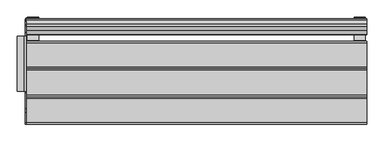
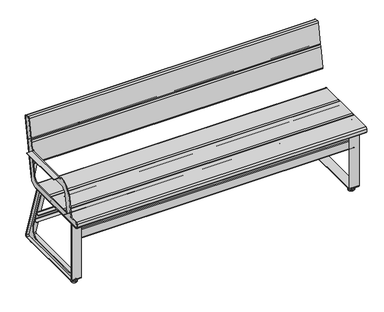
"""IFC4 building model written with IfcOpenShell, lengths in millimetres: furniture geometry, Roros Produkter - Trend - Bench - Backrest & Armrest - 32981 : Roros Produkter - Trend - Bench - Backrest & Armrest - 32981."""

from ifc_helpers import new_model, si_unit, point, frame, frame_2d, origin, place, context, project, spatial, polyline, circle_curve, ellipse_curve, trimmed, segment, composite_curve, outline, extrude, source, transform, mapped, element, save
from ifc_brep_helpers import plane_surface, cylinder_surface, revolved_surface, advanced_brep


def furniture_f64518dc(model_context):
    return source(origin(), model_context, "Body", "SolidModel", [
        extrude(outline(composite_curve([segment(trimmed(circle_curve(frame_2d((238.4053404, 31.7)), 10.0), [point((247.9159055, 34.7901699))], [point((238.4053404, 21.7))], False, "CARTESIAN"), True, "CONTINUOUS"), segment(polyline([(238.4053404, 21.7), (-237.8308404, 21.7)]), True, "CONTINUOUS"), segment(trimmed(circle_curve(frame_2d((-237.8308404, 31.7)), 10.0), [point((-237.8308404, 21.7))], [point((-247.8308404, 31.7))], False, "CARTESIAN"), True, "CONTINUOUS"), segment(polyline([(-247.8308404, 31.7), (-247.8308404, 401.464)]), True, "CONTINUOUS"), segment(trimmed(circle_curve(frame_2d((-237.8308404, 401.464)), 10.0), [point((-247.8308404, 401.464))], [point((-237.8308404, 411.464))], False, "CARTESIAN"), True, "CONTINUOUS"), segment(polyline([(-237.8308404, 411.464), (-127.8308404, 411.464), (-127.8308404, 407.464), (-237.8308404, 407.464)]), True, "CONTINUOUS"), segment(trimmed(circle_curve(frame_2d((-237.8308404, 401.464)), 6.0), [point((-237.8308404, 407.464))], [point((-243.8308404, 401.464))], True, "CARTESIAN"), True, "CONTINUOUS"), segment(polyline([(-243.8308404, 401.464), (-243.8308404, 31.7)]), True, "CONTINUOUS"), segment(trimmed(circle_curve(frame_2d((-237.8308404, 31.7)), 6.0), [point((-243.8308404, 31.7))], [point((-237.8308404, 25.7))], True, "CARTESIAN"), True, "CONTINUOUS"), segment(polyline([(-237.8308404, 25.7), (238.4053404, 25.7)]), True, "CONTINUOUS"), segment(trimmed(circle_curve(frame_2d((238.4053404, 31.7)), 6.0), [point((238.4053404, 25.7))], [point((244.1116795, 33.554102))], True, "CARTESIAN"), True, "CONTINUOUS"), segment(polyline([(244.1116795, 33.554102), (123.9681107, 403.3179856)]), True, "CONTINUOUS"), segment(trimmed(circle_curve(frame_2d((118.2617716, 401.4638836)), 6.0), [point((123.9681107, 403.3179856))], [point((118.2617716, 407.4638836))], True, "CARTESIAN"), True, "CONTINUOUS"), segment(polyline([(118.2617716, 407.4638836), (-4.4728031, 407.4638836), (-4.4728031, 411.4638836), (118.2617716, 411.4638836)]), True, "CONTINUOUS"), segment(trimmed(circle_curve(frame_2d((118.2617716, 401.4638836)), 10.0), [point((118.2617716, 411.4638836))], [point((127.7723368, 404.5540536))], False, "CARTESIAN"), True, "CONTINUOUS"), segment(polyline([(127.7723368, 404.5540536), (247.9159055, 34.7901699)]), True, "CONTINUOUS")], self_intersect=False)), frame((837.8, 0.0, 0.0), z_axis=(1.0, 0.0, 0.0), x_axis=(0.0, 1.0, 0.0)), (0.0, 0.0, 1.0), 60.0),
        advanced_brep(
        [(-908.0, -307.8308404, 421.464), (-898.0, -307.8308404, 411.464), (-853.0, -307.8308404, 411.464), (-853.0, -307.8308404, 415.464), (-898.0, -307.8308404, 415.464), (-904.0, -307.8308404, 421.464), (-904.0, -307.8308404, 421.664), (-908.0, -307.8308404, 421.664), (-904.0, 121.742304, 421.464), (-898.0, 121.742304, 415.464), (-853.0, 121.742304, 415.464), (-853.0, 121.742304, 411.464), (-898.0, 121.742304, 411.464), (-908.0, 121.742304, 421.464), (-908.0, 121.742304, 421.664), (-904.0, 121.742304, 421.664), (-904.0, -257.3458129, 457.464), (-904.0, -236.7737044, 574.1342251), (-908.0, -236.7737044, 574.1342251), (-908.0, -257.3458129, 457.464), (-904.0, -307.8308404, 457.464), (-908.0, -307.8308404, 457.464), (-904.0, -317.8308404, 447.464), (-908.0, -317.8308404, 447.464), (-904.0, -317.8308404, 431.664), (-908.0, -317.8308404, 431.664), (-904.0, 123.242304, 421.664), (-908.0, 123.242304, 421.664), (-904.0, 171.5252579, 461.3391091), (-908.0, 171.5252579, 461.3391091), (-904.0, 171.7857301, 462.8163208), (-908.0, 171.7857301, 462.8163208), (-904.0, 227.5482115, 836.6487723), (-904.0, 235.6598072, 825.064213), (-908.0, 235.6598072, 825.064213), (-908.0, 227.5482115, 836.6487723), (-904.0, 211.988249, 839.3924135), (-908.0, 211.988249, 839.3924135), (-904.0, 200.4036897, 831.2808178), (-908.0, 200.4036897, 831.2808178), (-904.0, 169.0497871, 653.464), (-908.0, 169.0497871, 653.464), (-904.0, 150.5497871, 653.464), (-908.0, 150.5497871, 653.464), (-904.0, 150.5497871, 643.264), (-908.0, 150.5497871, 643.264), (-904.0, 149.0497871, 643.264), (-908.0, 149.0497871, 643.264), (-904.0, -143.7321601, 643.264), (-904.0, -142.2321601, 643.264), (-908.0, -142.2321601, 643.264), (-908.0, -143.7321601, 643.264), (-904.0, -143.7321601, 647.1509556), (-908.0, -143.7321601, 647.1509556), (-904.0, -150.2321601, 653.1300859), (-908.0, -150.2321601, 653.1300859), (-904.0, 160.938746, 607.464), (-904.0, -142.2321601, 607.464), (-908.0, -142.2321601, 607.464), (-908.0, 160.938746, 607.464), (-904.0, 141.775105, 498.7815911), (-908.0, 141.775105, 498.7815911), (-904.0, 92.5347173, 457.464), (-908.0, 92.5347173, 457.464), (-904.0, -210.6361888, 457.464), (-908.0, -210.6361888, 457.464), (-904.0, -191.4725478, 566.1464089), (-908.0, -191.4725478, 566.1464089), (-914.0, -142.2321601, 649.464), (-908.0, -142.2321601, 643.464), (-904.0, -142.2321601, 643.464), (-914.0, -142.2321601, 653.464), (-950.0, -142.2321601, 653.464), (-950.0, -142.2321601, 649.464), (-914.0, 149.0497871, 649.464), (-950.0, 149.0497871, 649.464), (-950.0, 149.0497871, 653.464), (-914.0, 149.0497871, 653.464), (-904.0, 149.0497871, 643.464), (-908.0, 149.0497871, 643.464), (-898.0, 245.7048463, 823.2930016), (-908.0, 235.8567688, 825.0294834), (-904.0, 235.8567688, 825.0294834), (-898.0, 241.7656153, 823.9875943), (-863.0, 241.7656153, 823.9875943), (-863.0, 245.7048463, 823.2930016), (-898.0, 177.8915382, 461.7397021), (-904.0, 171.9826917, 462.7815911), (-908.0, 171.9826917, 462.7815911), (-898.0, 181.8307692, 461.0451093), (-892.7989561, 181.8307692, 461.0451093), (-892.7989561, 177.8915382, 461.7397021), (-883.4034627, 179.0334251, 468.2156645), (-853.6045066, 193.2318427, 548.7388923), (-853.0, 193.8264376, 552.1110073), (-853.0, 240.0291335, 814.1395168), (-853.0, 197.7656686, 551.4164146), (-853.0, 243.9683646, 813.4449241), (-853.6045066, 197.1710737, 548.0442996), (-883.4034627, 182.9726561, 467.5210718)],
        [
            (0, 1, circle_curve(frame((-898.0, -307.8308404, 421.464), z_axis=(0.0, -1.0, 0.0), x_axis=(1.0, 0.0, 0.0)), 10.0)),
            (1, 2),
            (2, 3),
            (3, 4),
            (4, 5, circle_curve(frame((-898.0, -307.8308404, 421.464), z_axis=(0.0, 1.0, 0.0), x_axis=(1.0, 0.0, 0.0)), 6.0)),
            (5, 6),
            (6, 7),
            (7, 0),
            (8, 9, circle_curve(frame((-898.0, 121.742304, 421.464), z_axis=(0.0, -1.0, 0.0), x_axis=(1.0, 0.0, 0.0)), 6.0)),
            (9, 10),
            (10, 11),
            (11, 12),
            (12, 13, circle_curve(frame((-898.0, 121.742304, 421.464), z_axis=(0.0, 1.0, 0.0), x_axis=(1.0, 0.0, 0.0)), 10.0)),
            (13, 14),
            (14, 15),
            (15, 8),
            (0, 13),
            (12, 1),
            (11, 2),
            (10, 3),
            (9, 4),
            (8, 5),
            (16, 17),
            (17, 18),
            (18, 19),
            (19, 16),
            (20, 16),
            (19, 21),
            (21, 20),
            (22, 20, circle_curve(frame((-904.0, -307.8308404, 447.464), z_axis=(-1.0, 0.0, 0.0), x_axis=(0.0, -1.0, 0.0)), 10.0)),
            (21, 23, circle_curve(frame((-908.0, -307.8308404, 447.464), z_axis=(1.0, 0.0, 0.0), x_axis=(0.0, -1.0, 0.0)), 10.0)),
            (23, 22),
            (24, 22),
            (23, 25),
            (25, 24),
            (6, 24, circle_curve(frame((-904.0, -307.8308404, 431.664), z_axis=(-1.0, 0.0, 0.0), x_axis=(0.0, -0.7071067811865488, -0.7071067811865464)), 10.0)),
            (25, 7, circle_curve(frame((-908.0, -307.8308404, 431.664), z_axis=(1.0, 0.0, 0.0), x_axis=(0.0, -0.7071067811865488, -0.7071067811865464)), 10.0)),
            (26, 15),
            (14, 27),
            (27, 26),
            (28, 26, circle_curve(frame((-904.0, 122.6020398, 471.6599004), z_axis=(-1.0, 0.0, 0.0), x_axis=(0.0, -0.9784643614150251, 0.20641582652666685)), 50.0)),
            (27, 29, circle_curve(frame((-908.0, 122.6020398, 471.6599004), z_axis=(1.0, 0.0, 0.0), x_axis=(0.0, -0.9784643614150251, 0.20641582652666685)), 50.0)),
            (29, 28),
            (30, 28),
            (29, 31),
            (31, 30),
            (32, 33, circle_curve(frame((-904.0, 225.8117297, 826.8006948), z_axis=(-1.0, 0.0, 0.0), x_axis=(0.0, 0.8191520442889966, 0.5735764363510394)), 10.0)),
            (33, 34),
            (34, 35, circle_curve(frame((-908.0, 225.8117297, 826.8006948), z_axis=(1.0, 0.0, 0.0), x_axis=(0.0, 0.8191520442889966, 0.5735764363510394)), 10.0)),
            (35, 32),
            (36, 32),
            (35, 37),
            (37, 36),
            (38, 36, circle_curve(frame((-904.0, 210.2517672, 829.544336), z_axis=(-1.0, 0.0, 0.0), x_axis=(0.0, -0.9848077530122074, 0.17364817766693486)), 10.0)),
            (37, 39, circle_curve(frame((-908.0, 210.2517672, 829.544336), z_axis=(1.0, 0.0, 0.0), x_axis=(0.0, -0.9848077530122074, 0.17364817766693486)), 10.0)),
            (39, 38),
            (40, 38),
            (39, 41),
            (41, 40),
            (42, 40),
            (41, 43),
            (43, 42),
            (44, 42),
            (43, 45),
            (45, 44),
            (46, 44),
            (45, 47),
            (47, 46),
            (48, 49),
            (49, 50),
            (50, 51),
            (51, 48),
            (52, 48),
            (51, 53),
            (53, 52),
            (54, 52, circle_curve(frame((-904.0, -149.7321601, 647.1509556), z_axis=(-1.0, 0.0, 0.0), x_axis=(0.0, 0.6770032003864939, 0.7359800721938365)), 6.0)),
            (53, 55, circle_curve(frame((-908.0, -149.7321601, 647.1509556), z_axis=(1.0, 0.0, 0.0), x_axis=(0.0, 0.6770032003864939, 0.7359800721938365)), 6.0)),
            (55, 54),
            (17, 54, circle_curve(frame((-904.0, -142.2321601, 557.464), z_axis=(-1.0, 0.0, 0.0), x_axis=(0.0, -0.9848077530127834, 0.17364817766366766)), 96.0)),
            (55, 18, circle_curve(frame((-908.0, -142.2321601, 557.464), z_axis=(1.0, 0.0, 0.0), x_axis=(0.0, -0.9848077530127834, 0.17364817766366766)), 96.0)),
            (56, 57),
            (57, 58),
            (58, 59),
            (59, 56),
            (60, 56),
            (59, 61),
            (61, 60),
            (62, 60, circle_curve(frame((-904.0, 92.5347173, 507.464), z_axis=(1.0, 0.0, 0.0), x_axis=(0.0, -0.9848077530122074, 0.17364817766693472)), 50.0)),
            (61, 63, circle_curve(frame((-908.0, 92.5347173, 507.464), z_axis=(-1.0, 0.0, 0.0), x_axis=(0.0, -0.9848077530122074, 0.17364817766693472)), 50.0)),
            (63, 62),
            (64, 62),
            (63, 65),
            (65, 64),
            (66, 64),
            (65, 67),
            (67, 66),
            (57, 66, circle_curve(frame((-904.0, -142.2321601, 557.464), z_axis=(1.0, 0.0, 0.0), x_axis=(0.0, 0.984807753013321, -0.17364817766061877)), 50.0)),
            (67, 58, circle_curve(frame((-908.0, -142.2321601, 557.464), z_axis=(-1.0, 0.0, 0.0), x_axis=(0.0, 0.984807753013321, -0.17364817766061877)), 50.0)),
            (68, 69, circle_curve(frame((-914.0, -142.2321601, 643.464), z_axis=(0.0, 1.0, 0.0), x_axis=(1.0, 0.0, 0.0)), 6.0)),
            (69, 50),
            (49, 70),
            (70, 71, circle_curve(frame((-914.0, -142.2321601, 643.464), z_axis=(0.0, -1.0, 0.0), x_axis=(1.0, 0.0, 0.0)), 10.0)),
            (71, 72),
            (72, 73),
            (73, 68),
            (74, 75),
            (75, 76),
            (76, 77),
            (77, 78, circle_curve(frame((-914.0, 149.0497871, 643.464), z_axis=(0.0, 1.0, 0.0), x_axis=(1.0, 0.0, 0.0)), 10.0)),
            (78, 46),
            (47, 79),
            (79, 74, circle_curve(frame((-914.0, 149.0497871, 643.464), z_axis=(0.0, -1.0, 0.0), x_axis=(1.0, 0.0, 0.0)), 6.0)),
            (68, 74),
            (79, 69),
            (70, 78),
            (77, 71),
            (76, 72),
            (75, 73),
            (80, 81, circle_curve(frame((-898.0, 235.8567688, 825.0294834), z_axis=(0.0, 0.1736481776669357, 0.9848077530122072), x_axis=(0.0, 0.9848077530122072, -0.1736481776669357)), 10.0)),
            (81, 34),
            (33, 82),
            (82, 83, circle_curve(frame((-898.0, 235.8567688, 825.0294834), z_axis=(0.0, -0.1736481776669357, -0.9848077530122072), x_axis=(0.0, 0.9848077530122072, -0.1736481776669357)), 6.0)),
            (83, 84),
            (84, 85),
            (85, 80),
            (86, 87, circle_curve(frame((-898.0, 171.9826917, 462.7815911), z_axis=(0.0, 0.1736481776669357, 0.9848077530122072), x_axis=(0.0, 0.9848077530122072, -0.1736481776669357)), 6.0)),
            (87, 30),
            (31, 88),
            (88, 89, circle_curve(frame((-898.0, 171.9826917, 462.7815911), z_axis=(0.0, -0.1736481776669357, -0.9848077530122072), x_axis=(0.0, 0.9848077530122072, -0.1736481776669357)), 10.0)),
            (89, 90),
            (90, 91),
            (91, 86),
            (80, 89),
            (88, 81),
            (87, 82),
            (86, 83),
            (91, 92, circle_curve(frame((-892.7989561, 179.62802, 471.5877796), z_axis=(0.0, -0.9848077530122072, 0.1736481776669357), x_axis=(-1.0, 0.0, 0.0)), 10.0)),
            (92, 93),
            (93, 94, circle_curve(frame((-863.0, 193.8264376, 552.1110073), z_axis=(0.0, -0.9848077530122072, 0.1736481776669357), x_axis=(-1.0, 0.0, 0.0)), 10.0)),
            (94, 95),
            (95, 84, circle_curve(frame((-863.0, 240.0291335, 814.1395168), z_axis=(0.0, -0.9848077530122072, 0.1736481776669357), x_axis=(-1.0, 0.0, 0.0)), 10.0)),
            (94, 96),
            (96, 97),
            (97, 95),
            (85, 97, circle_curve(frame((-863.0, 243.9683646, 813.4449241), z_axis=(0.0, 0.9848077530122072, -0.1736481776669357), x_axis=(-1.0, 0.0, 0.0)), 10.0)),
            (96, 98, circle_curve(frame((-863.0, 197.7656686, 551.4164146), z_axis=(0.0, 0.9848077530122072, -0.1736481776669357), x_axis=(-1.0, 0.0, 0.0)), 10.0)),
            (98, 99),
            (99, 90, circle_curve(frame((-892.7989561, 183.567251, 470.8931869), z_axis=(0.0, 0.9848077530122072, -0.1736481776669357), x_axis=(-1.0, 0.0, 0.0)), 10.0)),
            (99, 92),
            (98, 93),
        ],
        [
            plane_surface(frame((-908.0, -307.8308404, 428.7988272), z_axis=(0.0, -1.0, 0.0), x_axis=(-1.0, 0.0, 0.0))),
            plane_surface(frame((-908.0, 121.742304, 428.7988272), z_axis=(0.0, 1.0, 0.0), x_axis=(1.0, 0.0, 0.0))),
            cylinder_surface(frame((-898.0, 121.742304, 421.464), z_axis=(0.0, -1.0, 0.0), x_axis=(1.0, 0.0, 0.0)), 10.0),
            plane_surface(frame((-898.0, -307.8308404, 411.464), z_axis=(0.0, 0.0, -1.0), x_axis=(0.0, 1.0, 0.0))),
            plane_surface(frame((-853.0, -307.8308404, 411.464), z_axis=(1.0, 0.0, 0.0), x_axis=(0.0, 1.0, 0.0))),
            plane_surface(frame((-853.0, -307.8308404, 415.464), z_axis=(0.0, 0.0, 1.0), x_axis=(0.0, 1.0, 0.0))),
            revolved_surface(polyline([(-892.0, 121.742304, 421.464), (-892.0, -307.8308404, 421.464)]), (-898.0, 121.742304, 421.464), (0.0, 1.0, 0.0)),
            plane_surface(frame((-904.0, -236.7737044, 574.1342251), z_axis=(0.0, -0.9848077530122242, 0.17364817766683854), x_axis=(-1.0, 0.0, 0.0))),
            plane_surface(frame((-904.0, -257.3458129, 457.464), z_axis=(0.0, 0.0, 1.0), x_axis=(-1.0, 0.0, 0.0))),
            cylinder_surface(frame((-908.0, -307.8308404, 447.464), z_axis=(1.0, 0.0, 0.0), x_axis=(0.0, -1.0, 0.0)), 10.0),
            plane_surface(frame((-904.0, -317.8308404, 447.464), z_axis=(0.0, -1.0, 0.0), x_axis=(-1.0, 0.0, 0.0))),
            cylinder_surface(frame((-908.0, -307.8308404, 431.664), z_axis=(1.0, 0.0, 0.0), x_axis=(0.0, -0.7071067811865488, -0.7071067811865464)), 10.0),
            plane_surface(frame((-904.0, 121.742304, 421.664), z_axis=(0.0, 0.0, -1.0), x_axis=(-1.0, 0.0, 0.0))),
            cylinder_surface(frame((-908.0, 122.6020398, 471.6599004), z_axis=(1.0, 0.0, 0.0), x_axis=(0.0, -0.9784643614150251, 0.20641582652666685)), 50.0),
            plane_surface(frame((-904.0, 171.5252579, 461.3391091), z_axis=(0.0, 0.9848077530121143, -0.1736481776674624), x_axis=(-1.0, 0.0, 0.0))),
            cylinder_surface(frame((-908.0, 225.8117297, 826.8006948), z_axis=(1.0000000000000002, 0.0, 0.0), x_axis=(0.0, 0.8191520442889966, 0.5735764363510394)), 10.0),
            plane_surface(frame((-904.0, 227.5482115, 836.6487723), z_axis=(0.0, 0.17364817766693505, 0.9848077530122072), x_axis=(-1.0, 0.0, 0.0))),
            cylinder_surface(frame((-908.0, 210.2517672, 829.544336), z_axis=(1.0000000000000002, 0.0, 0.0), x_axis=(0.0, -0.9848077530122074, 0.17364817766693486)), 10.0),
            plane_surface(frame((-904.0, 200.4036897, 831.2808178), z_axis=(0.0, -0.9848077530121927, 0.17364817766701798), x_axis=(-1.0, 0.0, 0.0))),
            plane_surface(frame((-904.0, 169.0497871, 653.464), z_axis=(0.0, 0.0, 1.0), x_axis=(-1.0, 0.0, 0.0))),
            plane_surface(frame((-904.0, 150.5497871, 653.464), z_axis=(0.0, -1.0, 0.0), x_axis=(-1.0, 0.0, 0.0))),
            plane_surface(frame((-904.0, 150.5497871, 643.264), z_axis=(0.0, 0.0, 1.0), x_axis=(-1.0, 0.0, 0.0))),
            plane_surface(frame((-904.0, -142.2321601, 643.264), z_axis=(0.0, 0.0, 1.0), x_axis=(-1.0, 0.0, 0.0))),
            plane_surface(frame((-904.0, -143.7321601, 643.264), z_axis=(0.0, 1.0, 0.0), x_axis=(-1.0, 0.0, 0.0))),
            cylinder_surface(frame((-908.0, -149.7321601, 647.1509556), z_axis=(1.0, 0.0, 0.0), x_axis=(0.0, 0.6770032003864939, 0.7359800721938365)), 6.0),
            cylinder_surface(frame((-908.0, -142.2321601, 557.464), z_axis=(1.0000000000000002, 0.0, 0.0), x_axis=(0.0, -0.9848077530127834, 0.17364817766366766)), 96.0),
            plane_surface(frame((-904.0, -142.2321601, 607.464), z_axis=(0.0, 0.0, -1.0), x_axis=(-1.0, 0.0, 0.0))),
            plane_surface(frame((-904.0, 160.938746, 607.464), z_axis=(0.0, -0.9848077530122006, 0.17364817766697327), x_axis=(-1.0, 0.0, 0.0))),
            revolved_surface(polyline([(-908.0, 43.29432964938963, 516.1464088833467), (-904.0, 43.29432964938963, 516.1464088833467)]), (0.0, 92.5347173, 507.464), (-1.0, 0.0, 0.0)),
            plane_surface(frame((-904.0, 92.5347173, 457.464), z_axis=(0.0, 0.0, 1.0), x_axis=(-1.0, 0.0, 0.0))),
            plane_surface(frame((-904.0, -210.6361888, 457.464), z_axis=(0.0, 0.984807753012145, -0.1736481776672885), x_axis=(-1.0, 0.0, 0.0))),
            revolved_surface(polyline([(-908.0000000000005, -92.99177244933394, 548.7815911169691), (-904.0000000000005, -92.99177244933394, 548.7815911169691)]), (0.0, -142.2321601, 557.464), (-1.0000000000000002, 0.0, 0.0)),
            plane_surface(frame((-908.0, -142.2321601, 643.464), z_axis=(0.0, -1.0, 0.0), x_axis=(0.0, 0.0, -1.0))),
            plane_surface(frame((-908.0, 149.0497871, 643.464), z_axis=(0.0, 1.0, 0.0), x_axis=(0.0, 0.0, 1.0))),
            revolved_surface(polyline([(-908.0, 149.0497871, 643.464), (-908.0, -142.2321601, 643.464)]), (-914.0, 149.0497871, 643.464), (0.0, 1.0, 0.0)),
            cylinder_surface(frame((-914.0, 149.0497871, 643.464), z_axis=(0.0, -1.0, 0.0), x_axis=(1.0, 0.0, 0.0)), 10.0),
            plane_surface(frame((-914.0, -142.2321601, 653.464), z_axis=(0.0, 0.0, 1.0), x_axis=(0.0, 1.0, 0.0))),
            plane_surface(frame((-950.0, -142.2321601, 653.464), z_axis=(-1.0, 0.0, 0.0), x_axis=(0.0, 1.0, 0.0))),
            plane_surface(frame((-950.0, -142.2321601, 649.464), z_axis=(0.0, 0.0, -1.0), x_axis=(0.0, 1.0, 0.0))),
            plane_surface(frame((-898.0, 245.7048463, 823.2930016), z_axis=(0.0, 0.17364817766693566, 0.9848077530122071), x_axis=(-1.0, 0.0, 0.0))),
            plane_surface(frame((-898.0, 181.8307692, 461.0451093), z_axis=(0.0, -0.17364817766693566, -0.9848077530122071), x_axis=(1.0, 0.0, 0.0))),
            cylinder_surface(frame((-898.0, 171.9826917, 462.7815911), z_axis=(0.0, 0.1736481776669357, 0.9848077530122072), x_axis=(0.0, 0.9848077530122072, -0.1736481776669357)), 10.0),
            plane_surface(frame((-908.0, 235.8567688, 825.0294834), z_axis=(-1.0, 0.0, 0.0), x_axis=(0.0, -0.17364817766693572, -0.9848077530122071))),
            plane_surface(frame((-904.0, 219.7091835, 827.8767384), z_axis=(1.0000000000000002, 0.0, 0.0), x_axis=(0.0, -0.1736481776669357, -0.9848077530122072))),
            revolved_surface(polyline([(-898.0, 177.89153821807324, 461.7397020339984), (-898.0, 241.76561533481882, 823.9875943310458)]), (-898.0, 171.9826917, 462.7815911), (0.0, -0.1736481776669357, -0.9848077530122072)),
            plane_surface(frame((-898.0, 241.7656153, 823.9875943), z_axis=(0.0, -0.9848077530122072, 0.1736481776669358), x_axis=(0.0, -0.1736481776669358, -0.9848077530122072))),
            plane_surface(frame((-853.0, 241.7656153, 823.9875943), z_axis=(1.0000000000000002, 0.0, 0.0), x_axis=(0.0, -0.1736481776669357, -0.9848077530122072))),
            plane_surface(frame((-853.0, 245.7048463, 823.2930016), z_axis=(0.0, 0.9848077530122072, -0.1736481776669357), x_axis=(0.0, -0.1736481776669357, -0.9848077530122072))),
            cylinder_surface(frame((-892.7989561, 173.5222119, 472.6643983), z_axis=(0.0, -0.9848077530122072, 0.1736481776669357), x_axis=(-1.0, 0.0, 0.0)), 10.0),
            plane_surface(frame((-883.4034627, 198.6719598, 464.752861), z_axis=(0.9395493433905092, -0.059459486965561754, -0.3372115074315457), x_axis=(0.0, -0.984807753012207, 0.1736481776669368))),
            cylinder_surface(frame((-863.0, 187.7206295, 553.187626), z_axis=(0.0, -0.9848077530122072, 0.1736481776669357), x_axis=(-1.0, 0.0, 0.0)), 10.0),
            cylinder_surface(frame((-863.0, 233.9233255, 815.2161355), z_axis=(0.0, -0.9848077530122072, 0.1736481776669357), x_axis=(-1.0, 0.0, 0.0)), 10.0),
        ],
        [
            (0, [[1, 2, 3, 4, 5, 6, 7, 8]]),
            (1, [[9, 10, 11, 12, 13, 14, 15, 16]]),
            (2, [[-1, 17, -13, 18]]),
            (3, [[-2, -18, -12, 19]]),
            (4, [[-3, -19, -11, 20]]),
            (5, [[-4, -20, -10, 21]]),
            (6, [[-5, -21, -9, 22]]),
            (7, [[23, 24, 25, 26]]),
            (8, [[27, -26, 28, 29]]),
            (9, [[30, -29, 31, 32]]),
            (10, [[33, -32, 34, 35]]),
            (11, [[36, -35, 37, -7]]),
            (12, [[38, -15, 39, 40]]),
            (13, [[41, -40, 42, 43]]),
            (14, [[44, -43, 45, 46]]),
            (15, [[47, 48, 49, 50]]),
            (16, [[51, -50, 52, 53]]),
            (17, [[54, -53, 55, 56]]),
            (18, [[57, -56, 58, 59]]),
            (19, [[60, -59, 61, 62]]),
            (20, [[63, -62, 64, 65]]),
            (21, [[66, -65, 67, 68]]),
            (22, [[69, 70, 71, 72]]),
            (23, [[73, -72, 74, 75]]),
            (24, [[76, -75, 77, 78]]),
            (25, [[79, -78, 80, -24]]),
            (26, [[81, 82, 83, 84]]),
            (27, [[85, -84, 86, 87]]),
            (28, [[88, -87, 89, 90]]),
            (29, [[91, -90, 92, 93]]),
            (30, [[94, -93, 95, 96]]),
            (31, [[97, -96, 98, -82]]),
            (32, [[99, 100, -70, 101, 102, 103, 104, 105]]),
            (33, [[106, 107, 108, 109, 110, -68, 111, 112]]),
            (34, [[-99, 113, -112, 114]]),
            (35, [[-102, 115, -109, 116]]),
            (36, [[-103, -116, -108, 117]]),
            (37, [[-104, -117, -107, 118]]),
            (38, [[-105, -118, -106, -113]]),
            (39, [[119, 120, -48, 121, 122, 123, 124, 125]]),
            (40, [[126, 127, -46, 128, 129, 130, 131, 132]]),
            (41, [[-119, 133, -129, 134]]),
            (42, [[-134, -128, -45, -42, -39, -14, -17, -8, -37, -34, -31, -28, -25, -80, -77, -74, -71, -100, -114, -111, -67, -64, -61, -58, -55, -52, -49, -120], [-98, -95, -92, -89, -86, -83]]),
            (43, [[135, -121, -47, -51, -54, -57, -60, -63, -66, -110, -115, -101, -69, -73, -76, -79, -23, -27, -30, -33, -36, -6, -22, -16, -38, -41, -44, -127], [-81, -85, -88, -91, -94, -97]]),
            (44, [[-122, -135, -126, 136]]),
            (45, [[-136, -132, 137, 138, 139, 140, 141, -123]]),
            (46, [[-140, 142, 143, 144]]),
            (47, [[-133, -125, 145, -143, 146, 147, 148, -130]]),
            (48, [[149, -137, -131, -148]]),
            (49, [[-149, -147, 150, -138]]),
            (50, [[-150, -146, -142, -139]]),
            (51, [[-124, -141, -144, -145]]),
        ],
    ),
        extrude(outline(composite_curve([segment(trimmed(circle_curve(frame_2d((238.4053404, 31.7)), 6.0), [point((244.1116795, 33.554102))], [point((238.4053404, 25.7))], False, "CARTESIAN"), True, "CONTINUOUS"), segment(polyline([(238.4053404, 25.7), (-237.8308404, 25.7)]), True, "CONTINUOUS"), segment(trimmed(circle_curve(frame_2d((-237.8308404, 31.7)), 6.0), [point((-237.8308404, 25.7))], [point((-243.8308404, 31.7))], False, "CARTESIAN"), True, "CONTINUOUS"), segment(polyline([(-243.8308404, 31.7), (-243.8308404, 401.464)]), True, "CONTINUOUS"), segment(trimmed(circle_curve(frame_2d((-237.8308404, 401.464)), 6.0), [point((-243.8308404, 401.464))], [point((-237.8308404, 407.464))], False, "CARTESIAN"), True, "CONTINUOUS"), segment(polyline([(-237.8308404, 407.464), (-127.8308404, 407.464), (-127.8308404, 392.464), (-178.8308404, 392.464)]), True, "CONTINUOUS"), segment(trimmed(circle_curve(frame_2d((-178.8308404, 342.464)), 50.0), [point((-178.8308404, 392.464))], [point((-228.8308404, 342.464))], True, "CARTESIAN"), True, "CONTINUOUS"), segment(polyline([(-228.8308404, 342.464), (-228.8308404, 91.2638836)]), True, "CONTINUOUS"), segment(trimmed(circle_curve(frame_2d((-178.8308404, 91.2638836)), 50.0), [point((-228.8308404, 91.2638836))], [point((-178.8308404, 41.2638836))], True, "CARTESIAN"), True, "CONTINUOUS"), segment(polyline([(-178.8308404, 41.2638836), (157.0155902, 41.2638836)]), True, "CONTINUOUS"), segment(trimmed(circle_curve(frame_2d((157.0155902, 91.2638836)), 50.0), [point((157.0155902, 41.2638836))], [point((204.568416, 106.7147333))], True, "CARTESIAN"), True, "CONTINUOUS"), segment(polyline([(204.568416, 106.7147333), (123.0135722, 357.7147333)]), True, "CONTINUOUS"), segment(trimmed(circle_curve(frame_2d((75.4607464, 342.2638836)), 50.0), [point((123.0135722, 357.7147333))], [point((75.4607464, 392.2638836))], True, "CARTESIAN"), True, "CONTINUOUS"), segment(polyline([(75.4607464, 392.2638836), (-4.4728031, 392.2638836), (-4.4728031, 407.4638836), (118.2617716, 407.4638836)]), True, "CONTINUOUS"), segment(trimmed(circle_curve(frame_2d((118.2617716, 401.4638836)), 6.0), [point((118.2617716, 407.4638836))], [point((123.9681107, 403.3179856))], False, "CARTESIAN"), True, "CONTINUOUS"), segment(polyline([(123.9681107, 403.3179856), (244.1116795, 33.554102)]), True, "CONTINUOUS")], self_intersect=False)), frame((-879.8, 0.0, 0.0), z_axis=(1.0, 0.0, 0.0), x_axis=(0.0, 1.0, 0.0)), (0.0, 0.0, 1.0), 4.0),
        extrude(outline(composite_curve([segment(trimmed(circle_curve(frame_2d((238.4053404, 31.7)), 10.0), [point((247.9159055, 34.7901699))], [point((238.4053404, 21.7))], False, "CARTESIAN"), True, "CONTINUOUS"), segment(polyline([(238.4053404, 21.7), (-237.8308404, 21.7)]), True, "CONTINUOUS"), segment(trimmed(circle_curve(frame_2d((-237.8308404, 31.7)), 10.0), [point((-237.8308404, 21.7))], [point((-247.8308404, 31.7))], False, "CARTESIAN"), True, "CONTINUOUS"), segment(polyline([(-247.8308404, 31.7), (-247.8308404, 401.464)]), True, "CONTINUOUS"), segment(trimmed(circle_curve(frame_2d((-237.8308404, 401.464)), 10.0), [point((-247.8308404, 401.464))], [point((-237.8308404, 411.464))], False, "CARTESIAN"), True, "CONTINUOUS"), segment(polyline([(-237.8308404, 411.464), (-127.8308404, 411.464), (-127.8308404, 407.464), (-237.8308404, 407.464)]), True, "CONTINUOUS"), segment(trimmed(circle_curve(frame_2d((-237.8308404, 401.464)), 6.0), [point((-237.8308404, 407.464))], [point((-243.8308404, 401.464))], True, "CARTESIAN"), True, "CONTINUOUS"), segment(polyline([(-243.8308404, 401.464), (-243.8308404, 31.7)]), True, "CONTINUOUS"), segment(trimmed(circle_curve(frame_2d((-237.8308404, 31.7)), 6.0), [point((-243.8308404, 31.7))], [point((-237.8308404, 25.7))], True, "CARTESIAN"), True, "CONTINUOUS"), segment(polyline([(-237.8308404, 25.7), (238.4053404, 25.7)]), True, "CONTINUOUS"), segment(trimmed(circle_curve(frame_2d((238.4053404, 31.7)), 6.0), [point((238.4053404, 25.7))], [point((244.1116795, 33.554102))], True, "CARTESIAN"), True, "CONTINUOUS"), segment(polyline([(244.1116795, 33.554102), (123.9681107, 403.3179856)]), True, "CONTINUOUS"), segment(trimmed(circle_curve(frame_2d((118.2617716, 401.4638836)), 6.0), [point((123.9681107, 403.3179856))], [point((118.2617716, 407.4638836))], True, "CARTESIAN"), True, "CONTINUOUS"), segment(polyline([(118.2617716, 407.4638836), (-4.4728031, 407.4638836), (-4.4728031, 411.4638836), (118.2617716, 411.4638836)]), True, "CONTINUOUS"), segment(trimmed(circle_curve(frame_2d((118.2617716, 401.4638836)), 10.0), [point((118.2617716, 411.4638836))], [point((127.7723368, 404.5540536))], False, "CARTESIAN"), True, "CONTINUOUS"), segment(polyline([(127.7723368, 404.5540536), (247.9159055, 34.7901699)]), True, "CONTINUOUS")], self_intersect=False)), frame((-897.8, 0.0, 0.0), z_axis=(1.0, 0.0, 0.0), x_axis=(0.0, 1.0, 0.0)), (0.0, 0.0, 1.0), 60.0),
        extrude(outline(polyline([(869.5527767, -224.3308404), (862.0472233, -224.3308404), (858.2944465, -217.8308404), (862.0472233, -211.3308404), (869.5527767, -211.3308404), (873.3055535, -217.8308404), (869.5527767, -224.3308404)])), frame((0.0, 0.0, 10.0), z_axis=(0.0, 0.0, 1.0), x_axis=(1.0, 0.0, 0.0)), (0.0, 0.0, 1.0), 11.7),
        advanced_brep(
        [(865.78125, -199.3308404, 4.3376919), (865.78125, -236.3308404, 4.3376919), (865.78125, -236.3308404, 0.0), (865.78125, -199.3308404, 0.0), (865.78125, -200.3216002, 6.0888539), (865.78125, -235.3400807, 6.0888539), (865.78125, -206.8308404, 10.0), (865.78125, -228.8308404, 10.0), (865.78125, -217.8308404, 10.0), (865.78125, -217.8308404, 0.0)],
        [
            (0, 1, circle_curve(frame((865.78125, -217.8308404, 4.3376919), z_axis=(0.0, 0.0, -1.0), x_axis=(0.0, -1.0, 0.0)), 18.5)),
            (1, 2),
            (2, 3, circle_curve(frame((865.78125, -217.8308404, 0.0), z_axis=(0.0, 0.0, 1.0), x_axis=(0.0, -1.0, 0.0)), 18.5)),
            (3, 0),
            (1, 0, circle_curve(frame((865.78125, -217.8308404, 4.3376919), z_axis=(0.0, 0.0, -1.0), x_axis=(0.0, -1.0, 0.0)), 18.5)),
            (3, 2, circle_curve(frame((865.78125, -217.8308404, 0.0), z_axis=(0.0, 0.0, 1.0), x_axis=(0.0, -1.0, 0.0)), 18.5)),
            (4, 5, circle_curve(frame((865.78125, -217.8308404, 6.0888539), z_axis=(0.0, 0.0, -1.0), x_axis=(0.0, -1.0, 0.0)), 17.5092402)),
            (5, 1, circle_curve(frame((865.78125, -234.2878764, 4.3376919), z_axis=(1.0, 0.0, 0.0), x_axis=(0.0, 1.0, 0.0)), 2.042964)),
            (0, 4, circle_curve(frame((865.78125, -201.3738045, 4.3376919), z_axis=(1.0, 0.0, 0.0), x_axis=(0.0, -1.0, 0.0)), 2.042964)),
            (5, 4, circle_curve(frame((865.78125, -217.8308404, 6.0888539), z_axis=(0.0, 0.0, -1.0), x_axis=(0.0, -1.0, 0.0)), 17.5092402)),
            (6, 7, circle_curve(frame((865.78125, -217.8308404, 10.0), z_axis=(0.0, 0.0, -1.0), x_axis=(0.0, -1.0, 0.0)), 11.0)),
            (7, 5),
            (4, 6),
            (7, 6, circle_curve(frame((865.78125, -217.8308404, 10.0), z_axis=(0.0, 0.0, -1.0), x_axis=(0.0, -1.0, 0.0)), 11.0)),
            (8, 7),
            (6, 8),
            (2, 9),
            (9, 3),
        ],
        [
            cylinder_surface(frame((865.78125, -217.8308404, 10.0), z_axis=(0.0, 0.0, 1.0), x_axis=(0.0, -1.0, 0.0)), 18.5),
            revolved_surface(trimmed(ellipse_curve(frame((865.78125, -234.2878764, 4.3376919), z_axis=(-1.0, 0.0, 0.0), x_axis=(0.0, 1.0, 0.0)), 2.042964, 2.042964), [point((865.78125, -236.3308404, 4.3376919))], [point((865.78125, -235.3400807, 6.0888539))], True, "CARTESIAN"), (865.78125, -217.8308404, 10.0), (0.0, 0.0, 1.0)),
            revolved_surface(polyline([(865.78125, -235.3400807, 6.0888539), (865.78125, -228.8308404, 10.0)]), (865.78125, -217.8308404, 10.0), (0.0, 0.0, 1.0)),
            plane_surface(frame((865.78125, -217.8308404, 10.0), z_axis=(0.0, 0.0, 1.0), x_axis=(0.0, -1.0, 0.0))),
            plane_surface(frame((865.78125, -217.8308404, 0.0), z_axis=(0.0, 0.0, -1.0), x_axis=(0.0, -1.0, 0.0))),
        ],
        [
            (0, [[1, 2, 3, 4]]),
            (0, [[5, -4, 6, -2]]),
            (1, [[7, 8, -1, 9]]),
            (1, [[10, -9, -5, -8]]),
            (2, [[11, 12, -7, 13]]),
            (2, [[14, -13, -10, -12]]),
            (3, [[15, -11, 16]]),
            (3, [[-16, -14, -15]]),
            (4, [[-3, 17, 18]]),
            (4, [[-6, -18, -17]]),
        ],
    ),
        extrude(outline(polyline([(869.5527767, 224.3308404), (873.3055535, 217.8308404), (869.5527767, 211.3308404), (862.0472233, 211.3308404), (858.2944465, 217.8308404), (862.0472233, 224.3308404), (869.5527767, 224.3308404)])), frame((0.0, 0.0, 10.0), z_axis=(0.0, 0.0, 1.0), x_axis=(1.0, 0.0, 0.0)), (0.0, 0.0, 1.0), 11.7),
        advanced_brep(
        [(865.78125, 199.3308404, 0.0), (865.78125, 236.3308404, 0.0), (865.78125, 236.3308404, 4.3376919), (865.78125, 199.3308404, 4.3376919), (865.78125, 235.3400807, 6.0888539), (865.78125, 200.3216002, 6.0888539), (865.78125, 228.8308404, 10.0), (865.78125, 206.8308404, 10.0), (865.78125, 217.8308404, 10.0), (865.78125, 217.8308404, 0.0)],
        [
            (0, 1, circle_curve(frame((865.78125, 217.8308404, 0.0), z_axis=(0.0, 0.0, 1.0), x_axis=(0.0, 1.0, 0.0)), 18.5)),
            (1, 2),
            (2, 3, circle_curve(frame((865.78125, 217.8308404, 4.3376919), z_axis=(0.0, 0.0, -1.0), x_axis=(0.0, 1.0, 0.0)), 18.5)),
            (3, 0),
            (1, 0, circle_curve(frame((865.78125, 217.8308404, 0.0), z_axis=(0.0, 0.0, 1.0), x_axis=(0.0, 1.0, 0.0)), 18.5)),
            (3, 2, circle_curve(frame((865.78125, 217.8308404, 4.3376919), z_axis=(0.0, 0.0, -1.0), x_axis=(0.0, 1.0, 0.0)), 18.5)),
            (2, 4, circle_curve(frame((865.78125, 234.2878764, 4.3376919), z_axis=(1.0, 0.0, 0.0), x_axis=(0.0, -1.0, 0.0)), 2.042964)),
            (4, 5, circle_curve(frame((865.78125, 217.8308404, 6.0888539), z_axis=(0.0, 0.0, -1.0), x_axis=(0.0, 1.0, 0.0)), 17.5092402)),
            (5, 3, circle_curve(frame((865.78125, 201.3738045, 4.3376919), z_axis=(1.0, 0.0, 0.0), x_axis=(0.0, 1.0, 0.0)), 2.042964)),
            (5, 4, circle_curve(frame((865.78125, 217.8308404, 6.0888539), z_axis=(0.0, 0.0, -1.0), x_axis=(0.0, 1.0, 0.0)), 17.5092402)),
            (4, 6),
            (6, 7, circle_curve(frame((865.78125, 217.8308404, 10.0), z_axis=(0.0, 0.0, -1.0), x_axis=(0.0, 1.0, 0.0)), 11.0)),
            (7, 5),
            (7, 6, circle_curve(frame((865.78125, 217.8308404, 10.0), z_axis=(0.0, 0.0, -1.0), x_axis=(0.0, 1.0, 0.0)), 11.0)),
            (6, 8),
            (8, 7),
            (9, 1),
            (0, 9),
        ],
        [
            cylinder_surface(frame((865.78125, 217.8308404, 10.0), z_axis=(0.0, 0.0, -1.0), x_axis=(0.0, 1.0, 0.0)), 18.5),
            revolved_surface(trimmed(ellipse_curve(frame((865.78125, 234.2878764, 4.3376919), z_axis=(-1.0, 0.0, 0.0), x_axis=(0.0, -1.0, 0.0)), 2.042964, 2.042964), [point((865.78125, 235.3400807, 6.0888539))], [point((865.78125, 236.3308404, 4.3376919))], True, "CARTESIAN"), (865.78125, 217.8308404, 10.0), (0.0, 0.0, -1.0)),
            revolved_surface(polyline([(865.78125, 228.8308404, 10.0), (865.78125, 235.3400807, 6.0888539)]), (865.78125, 217.8308404, 10.0), (0.0, 0.0, -1.0)),
            plane_surface(frame((865.78125, 217.8308404, 10.0), z_axis=(0.0, 0.0, 1.0), x_axis=(0.0, 1.0, 0.0))),
            plane_surface(frame((865.78125, 217.8308404, 0.0), z_axis=(0.0, 0.0, -1.0), x_axis=(0.0, 1.0, 0.0))),
        ],
        [
            (0, [[1, 2, 3, 4]]),
            (0, [[5, -4, 6, -2]]),
            (1, [[-3, 7, 8, 9]]),
            (1, [[-6, -9, 10, -7]]),
            (2, [[-8, 11, 12, 13]]),
            (2, [[-10, -13, 14, -11]]),
            (3, [[-12, 15, 16]]),
            (3, [[-14, -16, -15]]),
            (4, [[17, -1, 18]]),
            (4, [[-18, -5, -17]]),
        ],
    ),
        extrude(outline(polyline([(-869.5527767, -224.3308404), (-873.3055535, -217.8308404), (-869.5527767, -211.3308404), (-862.0472233, -211.3308404), (-858.2944465, -217.8308404), (-862.0472233, -224.3308404), (-869.5527767, -224.3308404)])), frame((0.0, 0.0, 10.0), z_axis=(0.0, 0.0, 1.0), x_axis=(1.0, 0.0, 0.0)), (0.0, 0.0, 1.0), 11.7),
        advanced_brep(
        [(-865.78125, -199.3308404, 0.0), (-865.78125, -236.3308404, 0.0), (-865.78125, -236.3308404, 4.3376919), (-865.78125, -199.3308404, 4.3376919), (-865.78125, -235.3400807, 6.0888539), (-865.78125, -200.3216002, 6.0888539), (-865.78125, -228.8308404, 10.0), (-865.78125, -206.8308404, 10.0), (-865.78125, -217.8308404, 10.0), (-865.78125, -217.8308404, 0.0)],
        [
            (0, 1, circle_curve(frame((-865.78125, -217.8308404, 0.0), z_axis=(0.0, 0.0, 1.0), x_axis=(0.0, -1.0, 0.0)), 18.5)),
            (1, 2),
            (2, 3, circle_curve(frame((-865.78125, -217.8308404, 4.3376919), z_axis=(0.0, 0.0, -1.0), x_axis=(0.0, -1.0, 0.0)), 18.5)),
            (3, 0),
            (1, 0, circle_curve(frame((-865.78125, -217.8308404, 0.0), z_axis=(0.0, 0.0, 1.0), x_axis=(0.0, -1.0, 0.0)), 18.5)),
            (3, 2, circle_curve(frame((-865.78125, -217.8308404, 4.3376919), z_axis=(0.0, 0.0, -1.0), x_axis=(0.0, -1.0, 0.0)), 18.5)),
            (2, 4, circle_curve(frame((-865.78125, -234.2878764, 4.3376919), z_axis=(-1.0, 0.0, 0.0), x_axis=(0.0, 1.0, 0.0)), 2.042964)),
            (4, 5, circle_curve(frame((-865.78125, -217.8308404, 6.0888539), z_axis=(0.0, 0.0, -1.0), x_axis=(0.0, -1.0, 0.0)), 17.5092402)),
            (5, 3, circle_curve(frame((-865.78125, -201.3738045, 4.3376919), z_axis=(-1.0, 0.0, 0.0), x_axis=(0.0, -1.0, 0.0)), 2.042964)),
            (5, 4, circle_curve(frame((-865.78125, -217.8308404, 6.0888539), z_axis=(0.0, 0.0, -1.0), x_axis=(0.0, -1.0, 0.0)), 17.5092402)),
            (4, 6),
            (6, 7, circle_curve(frame((-865.78125, -217.8308404, 10.0), z_axis=(0.0, 0.0, -1.0), x_axis=(0.0, -1.0, 0.0)), 11.0)),
            (7, 5),
            (7, 6, circle_curve(frame((-865.78125, -217.8308404, 10.0), z_axis=(0.0, 0.0, -1.0), x_axis=(0.0, -1.0, 0.0)), 11.0)),
            (6, 8),
            (8, 7),
            (9, 1),
            (0, 9),
        ],
        [
            cylinder_surface(frame((-865.78125, -217.8308404, 10.0), z_axis=(0.0, 0.0, -1.0), x_axis=(0.0, -1.0, 0.0)), 18.5),
            revolved_surface(trimmed(ellipse_curve(frame((-865.78125, -234.2878764, 4.3376919), z_axis=(1.0, 0.0, 0.0), x_axis=(0.0, 1.0, 0.0)), 2.042964, 2.042964), [point((-865.78125, -235.3400807, 6.0888539))], [point((-865.78125, -236.3308404, 4.3376919))], True, "CARTESIAN"), (-865.78125, -217.8308404, 10.0), (0.0, 0.0, -1.0)),
            revolved_surface(polyline([(-865.78125, -228.8308404, 10.0), (-865.78125, -235.3400807, 6.0888539)]), (-865.78125, -217.8308404, 10.0), (0.0, 0.0, -1.0)),
            plane_surface(frame((-865.78125, -217.8308404, 10.0), z_axis=(0.0, 0.0, 1.0), x_axis=(0.0, -1.0, 0.0))),
            plane_surface(frame((-865.78125, -217.8308404, 0.0), z_axis=(0.0, 0.0, -1.0), x_axis=(0.0, -1.0, 0.0))),
        ],
        [
            (0, [[1, 2, 3, 4]]),
            (0, [[5, -4, 6, -2]]),
            (1, [[-3, 7, 8, 9]]),
            (1, [[-6, -9, 10, -7]]),
            (2, [[-8, 11, 12, 13]]),
            (2, [[-10, -13, 14, -11]]),
            (3, [[-12, 15, 16]]),
            (3, [[-14, -16, -15]]),
            (4, [[17, -1, 18]]),
            (4, [[-18, -5, -17]]),
        ],
    ),
        extrude(outline(polyline([(-869.5527767, 224.3308404), (-862.0472233, 224.3308404), (-858.2944465, 217.8308404), (-862.0472233, 211.3308404), (-869.5527767, 211.3308404), (-873.3055535, 217.8308404), (-869.5527767, 224.3308404)])), frame((0.0, 0.0, 10.0), z_axis=(0.0, 0.0, 1.0), x_axis=(1.0, 0.0, 0.0)), (0.0, 0.0, 1.0), 11.7),
        advanced_brep(
        [(-865.78125, 199.3308404, 4.3376919), (-865.78125, 236.3308404, 4.3376919), (-865.78125, 236.3308404, 0.0), (-865.78125, 199.3308404, 0.0), (-865.78125, 200.3216002, 6.0888539), (-865.78125, 235.3400807, 6.0888539), (-865.78125, 206.8308404, 10.0), (-865.78125, 228.8308404, 10.0), (-865.78125, 217.8308404, 10.0), (-865.78125, 217.8308404, 0.0)],
        [
            (0, 1, circle_curve(frame((-865.78125, 217.8308404, 4.3376919), z_axis=(0.0, 0.0, -1.0), x_axis=(0.0, 1.0, 0.0)), 18.5)),
            (1, 2),
            (2, 3, circle_curve(frame((-865.78125, 217.8308404, 0.0), z_axis=(0.0, 0.0, 1.0), x_axis=(0.0, 1.0, 0.0)), 18.5)),
            (3, 0),
            (1, 0, circle_curve(frame((-865.78125, 217.8308404, 4.3376919), z_axis=(0.0, 0.0, -1.0), x_axis=(0.0, 1.0, 0.0)), 18.5)),
            (3, 2, circle_curve(frame((-865.78125, 217.8308404, 0.0), z_axis=(0.0, 0.0, 1.0), x_axis=(0.0, 1.0, 0.0)), 18.5)),
            (4, 5, circle_curve(frame((-865.78125, 217.8308404, 6.0888539), z_axis=(0.0, 0.0, -1.0), x_axis=(0.0, 1.0, 0.0)), 17.5092402)),
            (5, 1, circle_curve(frame((-865.78125, 234.2878764, 4.3376919), z_axis=(-1.0, 0.0, 0.0), x_axis=(0.0, -1.0, 0.0)), 2.042964)),
            (0, 4, circle_curve(frame((-865.78125, 201.3738045, 4.3376919), z_axis=(-1.0, 0.0, 0.0), x_axis=(0.0, 1.0, 0.0)), 2.042964)),
            (5, 4, circle_curve(frame((-865.78125, 217.8308404, 6.0888539), z_axis=(0.0, 0.0, -1.0), x_axis=(0.0, 1.0, 0.0)), 17.5092402)),
            (6, 7, circle_curve(frame((-865.78125, 217.8308404, 10.0), z_axis=(0.0, 0.0, -1.0), x_axis=(0.0, 1.0, 0.0)), 11.0)),
            (7, 5),
            (4, 6),
            (7, 6, circle_curve(frame((-865.78125, 217.8308404, 10.0), z_axis=(0.0, 0.0, -1.0), x_axis=(0.0, 1.0, 0.0)), 11.0)),
            (8, 7),
            (6, 8),
            (2, 9),
            (9, 3),
        ],
        [
            cylinder_surface(frame((-865.78125, 217.8308404, 10.0), z_axis=(0.0, 0.0, 1.0), x_axis=(0.0, 1.0, 0.0)), 18.5),
            revolved_surface(trimmed(ellipse_curve(frame((-865.78125, 234.2878764, 4.3376919), z_axis=(1.0, 0.0, 0.0), x_axis=(0.0, -1.0, 0.0)), 2.042964, 2.042964), [point((-865.78125, 236.3308404, 4.3376919))], [point((-865.78125, 235.3400807, 6.0888539))], True, "CARTESIAN"), (-865.78125, 217.8308404, 10.0), (0.0, 0.0, 1.0)),
            revolved_surface(polyline([(-865.78125, 235.3400807, 6.0888539), (-865.78125, 228.8308404, 10.0)]), (-865.78125, 217.8308404, 10.0), (0.0, 0.0, 1.0)),
            plane_surface(frame((-865.78125, 217.8308404, 10.0), z_axis=(0.0, 0.0, 1.0), x_axis=(0.0, 1.0, 0.0))),
            plane_surface(frame((-865.78125, 217.8308404, 0.0), z_axis=(0.0, 0.0, -1.0), x_axis=(0.0, 1.0, 0.0))),
        ],
        [
            (0, [[1, 2, 3, 4]]),
            (0, [[5, -4, 6, -2]]),
            (1, [[7, 8, -1, 9]]),
            (1, [[10, -9, -5, -8]]),
            (2, [[11, 12, -7, 13]]),
            (2, [[14, -13, -10, -12]]),
            (3, [[15, -11, 16]]),
            (3, [[-16, -14, -15]]),
            (4, [[-3, 17, 18]]),
            (4, [[-6, -18, -17]]),
        ],
    ),
        extrude(outline(composite_curve([segment(trimmed(circle_curve(frame_2d((-32.8308404, 445.464)), 10.0), [point((-32.8308404, 455.464))], [point((-22.8308404, 445.464))], False, "CARTESIAN"), True, "CONTINUOUS"), segment(polyline([(-22.8308404, 445.464), (-22.8308404, 425.464)]), True, "CONTINUOUS"), segment(trimmed(circle_curve(frame_2d((-32.8308404, 425.464)), 10.0), [point((-22.8308404, 425.464))], [point((-32.8308404, 415.464))], False, "CARTESIAN"), True, "CONTINUOUS"), segment(polyline([(-32.8308404, 415.464), (-162.8308404, 415.464)]), True, "CONTINUOUS"), segment(trimmed(circle_curve(frame_2d((-162.8308404, 425.464)), 10.0), [point((-162.8308404, 415.464))], [point((-172.8308404, 425.464))], False, "CARTESIAN"), True, "CONTINUOUS"), segment(polyline([(-172.8308404, 425.464), (-172.8308404, 445.464)]), True, "CONTINUOUS"), segment(trimmed(circle_curve(frame_2d((-162.8308404, 445.464)), 10.0), [point((-172.8308404, 445.464))], [point((-162.8308404, 455.464))], False, "CARTESIAN"), True, "CONTINUOUS"), segment(polyline([(-162.8308404, 455.464), (-32.8308404, 455.464)]), True, "CONTINUOUS")], self_intersect=False)), frame((-904.0, 0.0, 0.0), z_axis=(1.0, 0.0, 0.0), x_axis=(0.0, 1.0, 0.0)), (0.0, 0.0, 1.0), 1808.0),
        extrude(outline(composite_curve([segment(trimmed(circle_curve(frame_2d((231.9175378, 825.7240761)), 10.0), [point((233.6540196, 835.5721536))], [point((241.7656153, 823.9875943))], False, "CARTESIAN"), True, "CONTINUOUS"), segment(polyline([(241.7656153, 823.9875943), (220.0595931, 700.8866252)]), True, "CONTINUOUS"), segment(trimmed(circle_curve(frame_2d((210.2115156, 702.623107)), 10.0), [point((220.0595931, 700.8866252))], [point((208.4750338, 692.7750295))], False, "CARTESIAN"), True, "CONTINUOUS"), segment(polyline([(208.4750338, 692.7750295), (188.7788787, 696.247993)]), True, "CONTINUOUS"), segment(trimmed(circle_curve(frame_2d((190.5153605, 706.0960705)), 10.0), [point((188.7788787, 696.247993))], [point((180.667283, 707.8325523))], False, "CARTESIAN"), True, "CONTINUOUS"), segment(polyline([(180.667283, 707.8325523), (202.3733052, 830.9335214)]), True, "CONTINUOUS"), segment(trimmed(circle_curve(frame_2d((212.2213827, 829.1970397)), 10.0), [point((202.3733052, 830.9335214))], [point((213.9578645, 839.0451172))], False, "CARTESIAN"), True, "CONTINUOUS"), segment(polyline([(213.9578645, 839.0451172), (233.6540196, 835.5721536)]), True, "CONTINUOUS")], self_intersect=False)), frame((-904.0, 0.0, 0.0), z_axis=(1.0, 0.0, 0.0), x_axis=(0.0, 1.0, 0.0)), (0.0, 0.0, 1.0), 1808.0),
        extrude(outline(composite_curve([segment(trimmed(circle_curve(frame_2d((112.1691596, 445.464)), 10.0), [point((112.1691596, 455.464))], [point((122.1691596, 445.464))], False, "CARTESIAN"), True, "CONTINUOUS"), segment(polyline([(122.1691596, 445.464), (122.1691596, 425.464)]), True, "CONTINUOUS"), segment(trimmed(circle_curve(frame_2d((112.1691596, 425.464)), 10.0), [point((122.1691596, 425.464))], [point((112.1691596, 415.464))], False, "CARTESIAN"), True, "CONTINUOUS"), segment(polyline([(112.1691596, 415.464), (-12.8308404, 415.464)]), True, "CONTINUOUS"), segment(trimmed(circle_curve(frame_2d((-12.8308404, 425.464)), 10.0), [point((-12.8308404, 415.464))], [point((-22.8308404, 425.464))], False, "CARTESIAN"), True, "CONTINUOUS"), segment(polyline([(-22.8308404, 425.464), (-22.8308404, 445.464)]), True, "CONTINUOUS"), segment(trimmed(circle_curve(frame_2d((-12.8308404, 445.464)), 10.0), [point((-22.8308404, 445.464))], [point((-12.8308404, 455.464))], False, "CARTESIAN"), True, "CONTINUOUS"), segment(polyline([(-12.8308404, 455.464), (112.1691596, 455.464)]), True, "CONTINUOUS")], self_intersect=False)), frame((-904.0, 0.0, 0.0), z_axis=(1.0, 0.0, 0.0), x_axis=(0.0, 1.0, 0.0)), (0.0, 0.0, 1.0), 1808.0),
        extrude(outline(composite_curve([segment(trimmed(circle_curve(frame_2d((-182.8308404, 445.464)), 10.0), [point((-182.8308404, 455.464))], [point((-172.8308404, 445.464))], False, "CARTESIAN"), True, "CONTINUOUS"), segment(polyline([(-172.8308404, 445.464), (-172.8308404, 425.464)]), True, "CONTINUOUS"), segment(trimmed(circle_curve(frame_2d((-182.8308404, 425.464)), 10.0), [point((-172.8308404, 425.464))], [point((-182.8308404, 415.464))], False, "CARTESIAN"), True, "CONTINUOUS"), segment(polyline([(-182.8308404, 415.464), (-307.8308404, 415.464)]), True, "CONTINUOUS"), segment(trimmed(circle_curve(frame_2d((-307.8308404, 425.464)), 10.0), [point((-307.8308404, 415.464))], [point((-317.8308404, 425.464))], False, "CARTESIAN"), True, "CONTINUOUS"), segment(polyline([(-317.8308404, 425.464), (-317.8308404, 445.464)]), True, "CONTINUOUS"), segment(trimmed(circle_curve(frame_2d((-307.8308404, 445.464)), 10.0), [point((-317.8308404, 445.464))], [point((-307.8308404, 455.464))], False, "CARTESIAN"), True, "CONTINUOUS"), segment(polyline([(-307.8308404, 455.464), (-182.8308404, 455.464)]), True, "CONTINUOUS")], self_intersect=False)), frame((-904.0, 0.0, 0.0), z_axis=(1.0, 0.0, 0.0), x_axis=(0.0, 1.0, 0.0)), (0.0, 0.0, 1.0), 1808.0),
        extrude(outline(composite_curve([segment(trimmed(circle_curve(frame_2d((165.3363748, 563.2989464)), 10.0), [point((163.599893, 553.4508688))], [point((155.4882972, 565.0354281))], False, "CARTESIAN"), True, "CONTINUOUS"), segment(polyline([(155.4882972, 565.0354281), (177.1943194, 688.1363973)]), True, "CONTINUOUS"), segment(trimmed(circle_curve(frame_2d((187.042397, 686.3999155)), 10.0), [point((177.1943194, 688.1363973))], [point((188.7788787, 696.247993))], False, "CARTESIAN"), True, "CONTINUOUS"), segment(polyline([(188.7788787, 696.247993), (208.4750338, 692.7750295)]), True, "CONTINUOUS"), segment(trimmed(circle_curve(frame_2d((206.738552, 682.9269519)), 10.0), [point((208.4750338, 692.7750295))], [point((216.5866296, 681.1904701))], False, "CARTESIAN"), True, "CONTINUOUS"), segment(polyline([(216.5866296, 681.1904701), (194.8806073, 558.089501)]), True, "CONTINUOUS"), segment(trimmed(circle_curve(frame_2d((185.0325298, 559.8259828)), 10.0), [point((194.8806073, 558.089501))], [point((183.296048, 549.9779053))], False, "CARTESIAN"), True, "CONTINUOUS"), segment(polyline([(183.296048, 549.9779053), (163.599893, 553.4508688)]), True, "CONTINUOUS")], self_intersect=False)), frame((-904.0, 0.0, 0.0), z_axis=(1.0, 0.0, 0.0), x_axis=(0.0, 1.0, 0.0)), (0.0, 0.0, 1.0), 1808.0),
        extrude(outline(composite_curve([segment(polyline([(-239.3308404, 346.7777471), (-218.8308404, 346.7777471), (-218.8308404, 344.777747), (-239.3308404, 344.777747)]), True, "CONTINUOUS"), segment(trimmed(circle_curve(frame_2d((-239.3308404, 342.277747)), 2.5), [point((-239.3308404, 344.777747))], [point((-241.8308404, 342.277747))], True, "CARTESIAN"), True, "CONTINUOUS"), segment(polyline([(-241.8308404, 342.277747), (-241.8308404, 291.2777432)]), True, "CONTINUOUS"), segment(trimmed(circle_curve(frame_2d((-239.3308404, 291.2777432)), 2.5), [point((-241.8308404, 291.2777432))], [point((-239.3308404, 288.7777432))], True, "CARTESIAN"), True, "CONTINUOUS"), segment(polyline([(-239.3308404, 288.7777432), (-218.8308404, 288.7777432), (-218.8308404, 286.7777431), (-239.3308404, 286.7777431)]), True, "CONTINUOUS"), segment(trimmed(circle_curve(frame_2d((-239.3308404, 291.2777431)), 4.5), [point((-239.3308404, 286.7777431))], [point((-243.8308404, 291.2777431))], False, "CARTESIAN"), True, "CONTINUOUS"), segment(polyline([(-243.8308404, 291.2777431), (-243.8308404, 342.2777471)]), True, "CONTINUOUS"), segment(trimmed(circle_curve(frame_2d((-239.3308404, 342.2777471)), 4.5), [point((-243.8308404, 342.2777471))], [point((-239.3308404, 346.7777471))], False, "CARTESIAN"), True, "CONTINUOUS")], self_intersect=False)), frame((-870.2946292, 0.0, 0.0), z_axis=(1.0, 0.0, 0.0), x_axis=(0.0, 1.0, 0.0)), (0.0, 0.0, 1.0), 1740.0001164),
        extrude(outline(composite_curve([segment(polyline([(162.9895923, 202.3205145), (182.4862509, 208.6553629)]), True, "CONTINUOUS"), segment(trimmed(circle_curve(frame_2d((183.8768274, 204.3756086)), 4.5), [point((182.4862509, 208.6553629))], [point((188.1565817, 205.766185))], False, "CARTESIAN"), True, "CONTINUOUS"), segment(polyline([(188.1565817, 205.766185), (203.9059435, 157.2946335)]), True, "CONTINUOUS"), segment(trimmed(circle_curve(frame_2d((199.5938584, 155.8935521)), 4.5339946), [point((203.9059435, 157.2946335))], [point((200.9949398, 151.581467))], False, "CARTESIAN"), True, "CONTINUOUS"), segment(polyline([(200.9949398, 151.581467), (181.530612, 145.2571235), (180.912578, 147.1592366), (200.4250242, 153.4992147)]), True, "CONTINUOUS"), segment(trimmed(circle_curve(frame_2d((199.6576115, 155.8610683)), 2.4833999), [point((200.4250242, 153.4992147))], [point((202.0194651, 156.6284811))], True, "CARTESIAN"), True, "CONTINUOUS"), segment(polyline([(202.0194651, 156.6284811), (186.2544687, 205.1481511)]), True, "CONTINUOUS"), segment(trimmed(circle_curve(frame_2d((183.8768274, 204.3756086)), 2.5), [point((186.2544687, 205.1481511))], [point((183.1042849, 206.7532499))], True, "CARTESIAN"), True, "CONTINUOUS"), segment(polyline([(183.1042849, 206.7532499), (163.6076263, 200.4184015), (162.9895923, 202.3205145)]), True, "CONTINUOUS")], self_intersect=False)), frame((-870.3, 0.0, 0.0), z_axis=(1.0, 0.0, 0.0), x_axis=(0.0, 1.0, 0.0)), (0.0, 0.0, 1.0), 1740.0),
    ])


if __name__ == "__main__":
    model = new_model("IFC4")
    model_context = context("Model", 3, world=origin())
    ifc_project = project(units=[si_unit("LENGTHUNIT", "METRE", prefix="MILLI")], contexts=[model_context])
    site = spatial("IfcSite", under=ifc_project)
    building = spatial("IfcBuilding", under=site)
    placement = place(None, origin())
    furniture_shape = furniture_f64518dc(model_context)
    element("IfcFurniture", 1, ObjectType="Roros Produkter - Trend - Bench - Backrest & Armrest - 32981 : Roros Produkter - Trend - Bench - Backrest & Armrest - 32981", at=placement, inside=building, context=model_context, shape_type="MappedRepresentation", body=[
        mapped(furniture_shape, transform((0.0, 0.0, 0.0), x_axis=(1.0, 0.0, 0.0), y_axis=(0.0, 1.0, 0.0), z_axis=(0.0, 0.0, 1.0))),
    ])
    save(model, "model.ifc")
